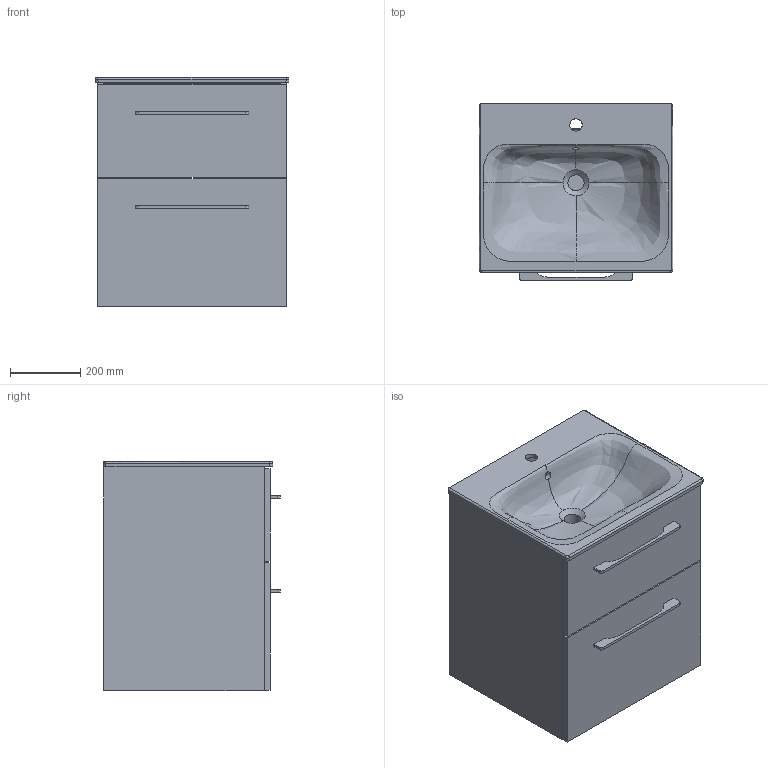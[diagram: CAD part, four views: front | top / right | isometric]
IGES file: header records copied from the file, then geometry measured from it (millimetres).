
Global section: file name: 501233; native system: Autodesk Inventor 2018; preprocessor: unknown; author: JANAN; date: 20200501.053921; units: millimetre
Bounding box: 551.06 x 502 x 651.5 mm (x, y, z)
Volume: 33677345.9 mm3; surface area: 4327584.7 mm2
Topology: 4 solids, 4 shells, 195 faces, 521 edges, 330 vertices
Faces by surface type: bspline 195
